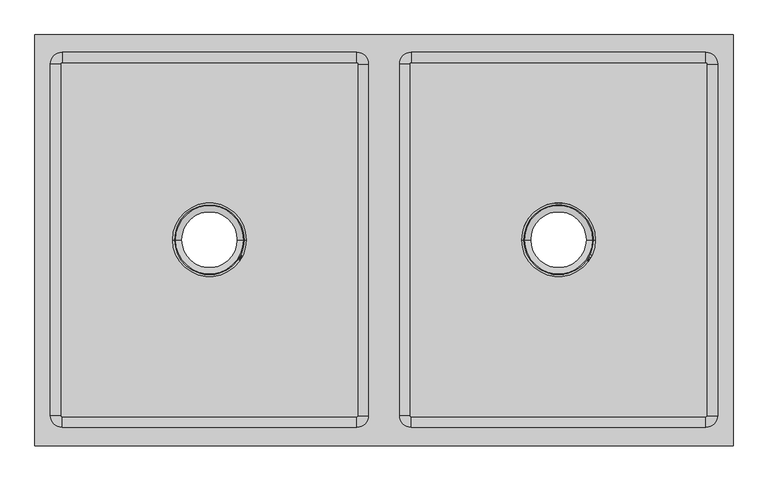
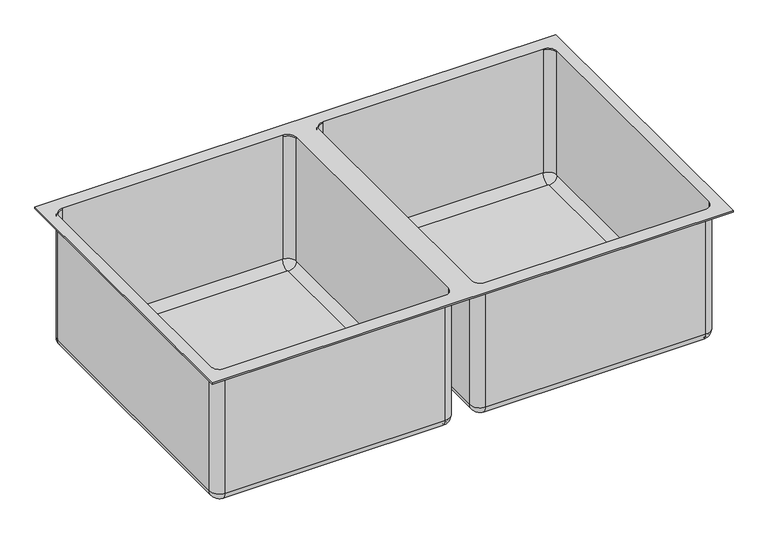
"""IFC4 building model written with IfcOpenShell, lengths in millimetres: flow terminal geometry, equip-sink-elkaySSP-economy-DBL : ByType."""

from ifc_helpers import new_model, si_unit, point, frame, origin, place, context, project, spatial, polyline, circle_curve, ellipse_curve, trimmed, source, transform, mapped, element, save
from ifc_brep_helpers import plane_surface, cylinder_surface, revolved_surface, advanced_brep


def flow_terminal_a46089cf(model_context):
    return source(origin(), model_context, "Body", "AdvancedBrep", [
        advanced_brep(
        [(-42.8625, 282.575, 555.625), (-44.45, 284.1625, 555.625), (-527.05, 284.1625, 555.625), (-528.6375, 282.575, 555.625), (-528.6375, -293.6875, 555.625), (-527.05, -295.275, 555.625), (-44.45, -295.275, 555.625), (-42.8625, -293.6875, 555.625), (-346.075, -5.55625, 555.625), (-225.425, -5.55625, 555.625), (-44.45, 284.1625, 552.45), (-42.8625, 282.575, 552.45), (-42.8625, -293.6875, 552.45), (-44.45, -295.275, 552.45), (-527.05, -295.275, 552.45), (-528.6375, -293.6875, 552.45), (-528.6375, 282.575, 552.45), (-527.05, 284.1625, 552.45), (-346.075, -5.55625, 552.45), (-225.425, -5.55625, 552.45), (-225.425, -5.55625, 553.7398396), (-346.075, -5.55625, 553.7398396), (571.5, 330.2, 860.425), (-571.5, 330.2, 860.425), (-571.5, -342.9, 860.425), (571.5, -342.9, 860.425), (-44.45, 301.625, 860.425), (-25.4, 282.575, 860.425), (-25.4, -293.6875, 860.425), (-44.45, -312.7375, 860.425), (-527.05, -312.7375, 860.425), (-546.1, -293.6875, 860.425), (-546.1, 282.575, 860.425), (-527.05, 301.625, 860.425), (546.1, -293.6875, 860.425), (527.05, -312.7375, 860.425), (44.45, -312.7375, 860.425), (25.4, -293.6875, 860.425), (25.4, 282.575, 860.425), (44.45, 301.625, 860.425), (527.05, 301.625, 860.425), (546.1, 282.575, 860.425), (571.5, 330.2, 857.25), (571.5, -342.9, 857.25), (-571.5, -342.9, 857.25), (-571.5, 330.2, 857.25), (-22.225, 282.575, 857.25), (-44.45, 304.8, 857.25), (-527.05, 304.8, 857.25), (-549.275, 282.575, 857.25), (-549.275, -293.6875, 857.25), (-527.05, -315.9125, 857.25), (-44.45, -315.9125, 857.25), (-22.225, -293.6875, 857.25), (549.275, 282.575, 857.25), (527.05, 304.8, 857.25), (44.45, 304.8, 857.25), (22.225, 282.575, 857.25), (22.225, -293.6875, 857.25), (44.45, -315.9125, 857.25), (527.05, -315.9125, 857.25), (549.275, -293.6875, 857.25), (546.1, 282.575, 857.25), (546.1, 282.575, 573.0875), (546.1, -293.6875, 573.0875), (546.1, -293.6875, 857.25), (-44.45, -312.7375, 857.25), (-44.45, -312.7375, 573.0875), (-527.05, -312.7375, 573.0875), (-527.05, -312.7375, 857.25), (-546.1, -293.6875, 857.25), (-546.1, -293.6875, 573.0875), (-546.1, 282.575, 573.0875), (-546.1, 282.575, 857.25), (-527.05, 301.625, 857.25), (-527.05, 301.625, 573.0875), (-44.45, 301.625, 573.0875), (-44.45, 301.625, 857.25), (-25.4, 282.575, 857.25), (-25.4, 282.575, 573.0875), (-25.4, -293.6875, 573.0875), (-25.4, -293.6875, 857.25), (527.05, -312.7375, 857.25), (527.05, -312.7375, 573.0875), (44.45, -312.7375, 573.0875), (44.45, -312.7375, 857.25), (25.4, -293.6875, 857.25), (25.4, -293.6875, 573.0875), (25.4, 282.575, 573.0875), (25.4, 282.575, 857.25), (44.45, 301.625, 857.25), (44.45, 301.625, 573.0875), (527.05, 301.625, 573.0875), (527.05, 301.625, 857.25), (-22.225, 282.575, 573.0875), (-44.45, 304.8, 573.0875), (-22.225, -293.6875, 573.0875), (-44.45, -315.9125, 573.0875), (-527.05, -315.9125, 573.0875), (-549.275, -293.6875, 573.0875), (-549.275, 282.575, 573.0875), (-527.05, 304.8, 573.0875), (528.6375, 282.575, 555.625), (527.05, 284.1625, 555.625), (44.45, 284.1625, 555.625), (42.8625, 282.575, 555.625), (42.8625, -293.6875, 555.625), (44.45, -295.275, 555.625), (527.05, -295.275, 555.625), (528.6375, -293.6875, 555.625), (225.425, -5.55625, 555.625), (346.075, -5.55625, 555.625), (527.05, 284.1625, 552.45), (528.6375, 282.575, 552.45), (528.6375, -293.6875, 552.45), (527.05, -295.275, 552.45), (44.45, -295.275, 552.45), (42.8625, -293.6875, 552.45), (42.8625, 282.575, 552.45), (44.45, 284.1625, 552.45), (225.425, -5.55625, 552.45), (346.075, -5.55625, 552.45), (346.075, -5.55625, 553.7398396), (225.425, -5.55625, 553.7398396), (228.1618408, -5.55625, 554.2207015), (343.3381592, -5.55625, 554.2207015), (229.7274156, -5.55625, 552.0462919), (341.7725844, -5.55625, 552.0462919), (239.9410162, -5.55625, 547.3503836), (331.5589838, -5.55625, 547.3503836), (239.9410162, -5.55625, 545.2536816), (331.5589838, -5.55625, 545.2536816), (228.5116165, -5.55625, 550.508578), (342.9883835, -5.55625, 550.508578), (226.6319717, -5.55625, 553.1191958), (344.8680283, -5.55625, 553.1191958), (-343.3381592, -5.55625, 554.2207015), (-228.1618408, -5.55625, 554.2207015), (-341.7725844, -5.55625, 552.0462919), (-229.7274156, -5.55625, 552.0462919), (-331.5589838, -5.55625, 547.3503836), (-239.9410162, -5.55625, 547.3503836), (-331.5589838, -5.55625, 545.2536816), (-239.9410162, -5.55625, 545.2536816), (-342.9883835, -5.55625, 550.508578), (-228.5116165, -5.55625, 550.508578), (-344.8680283, -5.55625, 553.1191958), (-226.6319717, -5.55625, 553.1191958), (549.275, 282.575, 573.0875), (527.05, 304.8, 573.0875), (549.275, -293.6875, 573.0875), (527.05, -315.9125, 573.0875), (44.45, -315.9125, 573.0875), (22.225, -293.6875, 573.0875), (22.225, 282.575, 573.0875), (44.45, 304.8, 573.0875)],
        [
            (0, 1, circle_curve(frame((-44.45, 282.575, 555.625), z_axis=(0.0, 0.0, 1.0), x_axis=(0.0, 1.0, 0.0)), 1.5875)),
            (1, 2),
            (2, 3, circle_curve(frame((-527.05, 282.575, 555.625), z_axis=(0.0, 0.0, 1.0), x_axis=(-1.0, 0.0, 0.0)), 1.5875)),
            (3, 4),
            (4, 5, circle_curve(frame((-527.05, -293.6875, 555.625), z_axis=(0.0, 0.0, 1.0), x_axis=(0.0, -1.0, 0.0)), 1.5875)),
            (5, 6),
            (6, 7, circle_curve(frame((-44.45, -293.6875, 555.625), z_axis=(0.0, 0.0, 1.0), x_axis=(1.0, 0.0, 0.0)), 1.5875)),
            (7, 0),
            (8, 9, circle_curve(frame((-285.75, -5.55625, 555.625), z_axis=(0.0, 0.0, -1.0), x_axis=(1.0, 0.0, 0.0)), 60.325)),
            (9, 8, circle_curve(frame((-285.75, -5.55625, 555.625), z_axis=(0.0, 0.0, -1.0), x_axis=(-1.0, 0.0, 0.0)), 60.325)),
            (10, 11, circle_curve(frame((-44.45, 282.575, 552.45), z_axis=(0.0, 0.0, -1.0), x_axis=(0.0, 1.0, 0.0)), 1.5875)),
            (11, 12),
            (12, 13, circle_curve(frame((-44.45, -293.6875, 552.45), z_axis=(0.0, 0.0, -1.0), x_axis=(1.0, 0.0, 0.0)), 1.5875)),
            (13, 14),
            (14, 15, circle_curve(frame((-527.05, -293.6875, 552.45), z_axis=(0.0, 0.0, -1.0), x_axis=(0.0, -1.0, 0.0)), 1.5875)),
            (15, 16),
            (16, 17, circle_curve(frame((-527.05, 282.575, 552.45), z_axis=(0.0, 0.0, -1.0), x_axis=(-1.0, 0.0, 0.0)), 1.5875)),
            (17, 10),
            (18, 19, circle_curve(frame((-285.75, -5.55625, 552.45), z_axis=(0.0, 0.0, 1.0), x_axis=(1.0, 0.0, 0.0)), 60.325)),
            (19, 18, circle_curve(frame((-285.75, -5.55625, 552.45), z_axis=(0.0, 0.0, 1.0), x_axis=(1.0, 0.0, 0.0)), 60.325)),
            (19, 20),
            (20, 21, circle_curve(frame((-285.75, -5.55625, 553.7398396), z_axis=(0.0, 0.0, 1.0), x_axis=(1.0, 0.0, 0.0)), 60.325)),
            (21, 18),
            (21, 20, circle_curve(frame((-285.75, -5.55625, 553.7398396), z_axis=(0.0, 0.0, 1.0), x_axis=(1.0, 0.0, 0.0)), 60.325)),
            (22, 23),
            (23, 24),
            (24, 25),
            (25, 22),
            (26, 27, circle_curve(frame((-44.45, 282.575, 860.425), z_axis=(0.0, 0.0, -1.0), x_axis=(1.0, 0.0, 0.0)), 19.05)),
            (27, 28),
            (28, 29, circle_curve(frame((-44.45, -293.6875, 860.425), z_axis=(0.0, 0.0, -1.0), x_axis=(1.0, 0.0, 0.0)), 19.05)),
            (29, 30),
            (30, 31, circle_curve(frame((-527.05, -293.6875, 860.425), z_axis=(0.0, 0.0, -1.0), x_axis=(1.0, 0.0, 0.0)), 19.05)),
            (31, 32),
            (32, 33, circle_curve(frame((-527.05, 282.575, 860.425), z_axis=(0.0, 0.0, -1.0), x_axis=(1.0, 0.0, 0.0)), 19.05)),
            (33, 26),
            (34, 35, circle_curve(frame((527.05, -293.6875, 860.425), z_axis=(0.0, 0.0, -1.0), x_axis=(1.0, 0.0, 0.0)), 19.05)),
            (35, 36),
            (36, 37, circle_curve(frame((44.45, -293.6875, 860.425), z_axis=(0.0, 0.0, -1.0), x_axis=(1.0, 0.0, 0.0)), 19.05)),
            (37, 38),
            (38, 39, circle_curve(frame((44.45, 282.575, 860.425), z_axis=(0.0, 0.0, -1.0), x_axis=(1.0, 0.0, 0.0)), 19.05)),
            (39, 40),
            (40, 41, circle_curve(frame((527.05, 282.575, 860.425), z_axis=(0.0, 0.0, -1.0), x_axis=(1.0, 0.0, 0.0)), 19.05)),
            (41, 34),
            (42, 43),
            (43, 44),
            (44, 45),
            (45, 42),
            (46, 47, circle_curve(frame((-44.45, 282.575, 857.25), z_axis=(0.0, 0.0, 1.0), x_axis=(0.0, 1.0, 0.0)), 22.225)),
            (47, 48),
            (48, 49, circle_curve(frame((-527.05, 282.575, 857.25), z_axis=(0.0, 0.0, 1.0), x_axis=(-1.0, 0.0, 0.0)), 22.225)),
            (49, 50),
            (50, 51, circle_curve(frame((-527.05, -293.6875, 857.25), z_axis=(0.0, 0.0, 1.0), x_axis=(0.0, -1.0, 0.0)), 22.225)),
            (51, 52),
            (52, 53, circle_curve(frame((-44.45, -293.6875, 857.25), z_axis=(0.0, 0.0, 1.0), x_axis=(1.0, 0.0, 0.0)), 22.225)),
            (53, 46),
            (54, 55, circle_curve(frame((527.05, 282.575, 857.25), z_axis=(0.0, 0.0, 1.0), x_axis=(0.0, 1.0, 0.0)), 22.225)),
            (55, 56),
            (56, 57, circle_curve(frame((44.45, 282.575, 857.25), z_axis=(0.0, 0.0, 1.0), x_axis=(-1.0, 0.0, 0.0)), 22.225)),
            (57, 58),
            (58, 59, circle_curve(frame((44.45, -293.6875, 857.25), z_axis=(0.0, 0.0, 1.0), x_axis=(0.0, -1.0, 0.0)), 22.225)),
            (59, 60),
            (60, 61, circle_curve(frame((527.05, -293.6875, 857.25), z_axis=(0.0, 0.0, 1.0), x_axis=(1.0, 0.0, 0.0)), 22.225)),
            (61, 54),
            (22, 42),
            (45, 23),
            (44, 24),
            (43, 25),
            (41, 62),
            (62, 63),
            (63, 64),
            (64, 65),
            (65, 34),
            (29, 66),
            (66, 67),
            (67, 68),
            (68, 69),
            (69, 30),
            (31, 70),
            (70, 71),
            (71, 72),
            (72, 73),
            (73, 32),
            (33, 74),
            (74, 75),
            (75, 76),
            (76, 77),
            (77, 26),
            (69, 70, circle_curve(frame((-527.05, -293.6875, 857.25), z_axis=(0.0, 0.0, -1.0), x_axis=(1.0, 0.0, 0.0)), 19.05)),
            (73, 74, circle_curve(frame((-527.05, 282.575, 857.25), z_axis=(0.0, 0.0, -1.0), x_axis=(1.0, 0.0, 0.0)), 19.05)),
            (77, 78, circle_curve(frame((-44.45, 282.575, 857.25), z_axis=(0.0, 0.0, -1.0), x_axis=(1.0, 0.0, 0.0)), 19.05)),
            (78, 27),
            (78, 79),
            (79, 80),
            (80, 81),
            (81, 28),
            (81, 66, circle_curve(frame((-44.45, -293.6875, 857.25), z_axis=(0.0, 0.0, -1.0), x_axis=(1.0, 0.0, 0.0)), 19.05)),
            (35, 82),
            (82, 83),
            (83, 84),
            (84, 85),
            (85, 36),
            (37, 86),
            (86, 87),
            (87, 88),
            (88, 89),
            (89, 38),
            (39, 90),
            (90, 91),
            (91, 92),
            (92, 93),
            (93, 40),
            (76, 79, circle_curve(frame((-44.45, 282.575, 573.0875), z_axis=(0.0, 0.0, -1.0), x_axis=(0.0, 1.0, 0.0)), 19.05)),
            (80, 67, circle_curve(frame((-44.45, -293.6875, 573.0875), z_axis=(0.0, 0.0, -1.0), x_axis=(1.0, 0.0, 0.0)), 19.05)),
            (68, 71, circle_curve(frame((-527.05, -293.6875, 573.0875), z_axis=(0.0, 0.0, -1.0), x_axis=(0.0, -1.0, 0.0)), 19.05)),
            (72, 75, circle_curve(frame((-527.05, 282.575, 573.0875), z_axis=(0.0, 0.0, -1.0), x_axis=(-1.0, 0.0, 0.0)), 19.05)),
            (94, 95, circle_curve(frame((-44.45, 282.575, 573.0875), z_axis=(0.0, 0.0, 1.0), x_axis=(0.0, 1.0, 0.0)), 22.225)),
            (95, 47),
            (46, 94),
            (94, 11, circle_curve(frame((-42.8625, 282.575, 573.0875), z_axis=(0.0, 1.0, 0.0), x_axis=(1.0, 0.0, 0.0)), 20.6375)),
            (10, 95, circle_curve(frame((-44.45, 284.1625, 573.0875), z_axis=(1.0, 0.0, 0.0), x_axis=(0.0, 1.0, 0.0)), 20.6375)),
            (76, 1, circle_curve(frame((-44.45, 284.1625, 573.0875), z_axis=(-1.0, 0.0, 0.0), x_axis=(0.0, 1.0, 0.0)), 17.4625)),
            (0, 79, circle_curve(frame((-42.8625, 282.575, 573.0875), z_axis=(0.0, -1.0, 0.0), x_axis=(1.0, 0.0, 0.0)), 17.4625)),
            (53, 96),
            (96, 94),
            (96, 12, circle_curve(frame((-42.8625, -293.6875, 573.0875), z_axis=(0.0, 1.0, 0.0), x_axis=(1.0, 0.0, 0.0)), 20.6375)),
            (7, 80, circle_curve(frame((-42.8625, -293.6875, 573.0875), z_axis=(0.0, -1.0, 0.0), x_axis=(1.0, 0.0, 0.0)), 17.4625)),
            (52, 97),
            (97, 96, circle_curve(frame((-44.45, -293.6875, 573.0875), z_axis=(0.0, 0.0, 1.0), x_axis=(1.0, 0.0, 0.0)), 22.225)),
            (97, 13, circle_curve(frame((-44.45, -295.275, 573.0875), z_axis=(1.0, 0.0, 0.0), x_axis=(0.0, -1.0, 0.0)), 20.6375)),
            (6, 67, circle_curve(frame((-44.45, -295.275, 573.0875), z_axis=(-1.0, 0.0, 0.0), x_axis=(0.0, -1.0, 0.0)), 17.4625)),
            (51, 98),
            (98, 97),
            (98, 14, circle_curve(frame((-527.05, -295.275, 573.0875), z_axis=(1.0, 0.0, 0.0), x_axis=(0.0, -1.0, 0.0)), 20.6375)),
            (5, 68, circle_curve(frame((-527.05, -295.275, 573.0875), z_axis=(-1.0, 0.0, 0.0), x_axis=(0.0, -1.0, 0.0)), 17.4625)),
            (50, 99),
            (99, 98, circle_curve(frame((-527.05, -293.6875, 573.0875), z_axis=(0.0, 0.0, 1.0), x_axis=(0.0, -1.0, 0.0)), 22.225)),
            (99, 15, circle_curve(frame((-528.6375, -293.6875, 573.0875), z_axis=(0.0, -1.0, 0.0), x_axis=(-1.0, 0.0, 0.0)), 20.6375)),
            (4, 71, circle_curve(frame((-528.6375, -293.6875, 573.0875), z_axis=(0.0, 1.0, 0.0), x_axis=(-1.0, 0.0, 0.0)), 17.4625)),
            (49, 100),
            (100, 99),
            (100, 16, circle_curve(frame((-528.6375, 282.575, 573.0875), z_axis=(0.0, -1.0, 0.0), x_axis=(-1.0, 0.0, 0.0)), 20.6375)),
            (3, 72, circle_curve(frame((-528.6375, 282.575, 573.0875), z_axis=(0.0, 1.0, 0.0), x_axis=(-1.0, 0.0, 0.0)), 17.4625)),
            (48, 101),
            (101, 100, circle_curve(frame((-527.05, 282.575, 573.0875), z_axis=(0.0, 0.0, 1.0), x_axis=(-1.0, 0.0, 0.0)), 22.225)),
            (101, 17, circle_curve(frame((-527.05, 284.1625, 573.0875), z_axis=(-1.0, 0.0, 0.0), x_axis=(0.0, 1.0, 0.0)), 20.6375)),
            (2, 75, circle_curve(frame((-527.05, 284.1625, 573.0875), z_axis=(1.0, 0.0, 0.0), x_axis=(0.0, 1.0, 0.0)), 17.4625)),
            (95, 101),
            (102, 103, circle_curve(frame((527.05, 282.575, 555.625), z_axis=(0.0, 0.0, 1.0), x_axis=(0.0, 1.0, 0.0)), 1.5875)),
            (103, 104),
            (104, 105, circle_curve(frame((44.45, 282.575, 555.625), z_axis=(0.0, 0.0, 1.0), x_axis=(-1.0, 0.0, 0.0)), 1.5875)),
            (105, 106),
            (106, 107, circle_curve(frame((44.45, -293.6875, 555.625), z_axis=(0.0, 0.0, 1.0), x_axis=(0.0, -1.0, 0.0)), 1.5875)),
            (107, 108),
            (108, 109, circle_curve(frame((527.05, -293.6875, 555.625), z_axis=(0.0, 0.0, 1.0), x_axis=(1.0, 0.0, 0.0)), 1.5875)),
            (109, 102),
            (110, 111, circle_curve(frame((285.75, -5.55625, 555.625), z_axis=(0.0, 0.0, -1.0), x_axis=(1.0, 0.0, 0.0)), 60.325)),
            (111, 110, circle_curve(frame((285.75, -5.55625, 555.625), z_axis=(0.0, 0.0, -1.0), x_axis=(-1.0, 0.0, 0.0)), 60.325)),
            (112, 113, circle_curve(frame((527.05, 282.575, 552.45), z_axis=(0.0, 0.0, -1.0), x_axis=(0.0, 1.0, 0.0)), 1.5875)),
            (113, 114),
            (114, 115, circle_curve(frame((527.05, -293.6875, 552.45), z_axis=(0.0, 0.0, -1.0), x_axis=(1.0, 0.0, 0.0)), 1.5875)),
            (115, 116),
            (116, 117, circle_curve(frame((44.45, -293.6875, 552.45), z_axis=(0.0, 0.0, -1.0), x_axis=(0.0, -1.0, 0.0)), 1.5875)),
            (117, 118),
            (118, 119, circle_curve(frame((44.45, 282.575, 552.45), z_axis=(0.0, 0.0, -1.0), x_axis=(-1.0, 0.0, 0.0)), 1.5875)),
            (119, 112),
            (120, 121, circle_curve(frame((285.75, -5.55625, 552.45), z_axis=(0.0, 0.0, 1.0), x_axis=(1.0, 0.0, 0.0)), 60.325)),
            (121, 120, circle_curve(frame((285.75, -5.55625, 552.45), z_axis=(0.0, 0.0, 1.0), x_axis=(1.0, 0.0, 0.0)), 60.325)),
            (121, 122),
            (122, 123, circle_curve(frame((285.75, -5.55625, 553.7398396), z_axis=(0.0, 0.0, 1.0), x_axis=(1.0, 0.0, 0.0)), 60.325)),
            (123, 120),
            (123, 122, circle_curve(frame((285.75, -5.55625, 553.7398396), z_axis=(0.0, 0.0, 1.0), x_axis=(1.0, 0.0, 0.0)), 60.325)),
            (64, 83, circle_curve(frame((527.05, -293.6875, 573.0875), z_axis=(0.0, 0.0, -1.0), x_axis=(1.0, 0.0, 0.0)), 19.05)),
            (82, 65, circle_curve(frame((527.05, -293.6875, 857.25), z_axis=(0.0, 0.0, 1.0), x_axis=(1.0, 0.0, 0.0)), 19.05)),
            (124, 125, circle_curve(frame((285.75, -5.55625, 554.2207015), z_axis=(0.0, 0.0, -1.0), x_axis=(1.0, 0.0, 0.0)), 57.5881592)),
            (125, 111, circle_curve(frame((346.0796845, -5.55625, 552.2468032), z_axis=(0.0, 1.0, 0.0), x_axis=(-1.0, 0.0, 0.0)), 3.3782)),
            (110, 124, circle_curve(frame((225.4203155, -5.55625, 552.2468032), z_axis=(0.0, 1.0, 0.0), x_axis=(1.0, 0.0, 0.0)), 3.3782)),
            (124, 126),
            (126, 127, circle_curve(frame((285.75, -5.55625, 552.0462919), z_axis=(0.0, 0.0, -1.0), x_axis=(1.0, 0.0, 0.0)), 56.0225844)),
            (127, 125),
            (126, 128),
            (128, 129, circle_curve(frame((285.75, -5.55625, 547.3503836), z_axis=(0.0, 0.0, -1.0), x_axis=(1.0, 0.0, 0.0)), 45.8089838)),
            (129, 127),
            (128, 130),
            (130, 131, circle_curve(frame((285.75, -5.55625, 545.2536816), z_axis=(0.0, 0.0, -1.0), x_axis=(1.0, 0.0, 0.0)), 45.8089838)),
            (131, 129),
            (130, 132),
            (132, 133, circle_curve(frame((285.75, -5.55625, 550.508578), z_axis=(0.0, 0.0, -1.0), x_axis=(1.0, 0.0, 0.0)), 57.2383835)),
            (133, 131),
            (132, 134),
            (134, 135, circle_curve(frame((285.75, -5.55625, 553.1191958), z_axis=(0.0, 0.0, -1.0), x_axis=(1.0, 0.0, 0.0)), 59.1180283)),
            (135, 133),
            (134, 123, circle_curve(frame((225.4203155, -5.55625, 552.2468032), z_axis=(0.0, -1.0, 0.0), x_axis=(1.0, 0.0, 0.0)), 1.4930438)),
            (122, 135, circle_curve(frame((346.0796845, -5.55625, 552.2468032), z_axis=(0.0, -1.0, 0.0), x_axis=(-1.0, 0.0, 0.0)), 1.4930438)),
            (125, 124, circle_curve(frame((285.75, -5.55625, 554.2207015), z_axis=(0.0, 0.0, -1.0), x_axis=(-1.0, 0.0, 0.0)), 57.5881592)),
            (127, 126, circle_curve(frame((285.75, -5.55625, 552.0462919), z_axis=(0.0, 0.0, -1.0), x_axis=(-1.0, 0.0, 0.0)), 56.0225844)),
            (129, 128, circle_curve(frame((285.75, -5.55625, 547.3503836), z_axis=(0.0, 0.0, -1.0), x_axis=(-1.0, 0.0, 0.0)), 45.8089838)),
            (131, 130, circle_curve(frame((285.75, -5.55625, 545.2536816), z_axis=(0.0, 0.0, -1.0), x_axis=(-1.0, 0.0, 0.0)), 45.8089838)),
            (133, 132, circle_curve(frame((285.75, -5.55625, 550.508578), z_axis=(0.0, 0.0, -1.0), x_axis=(-1.0, 0.0, 0.0)), 57.2383835)),
            (135, 134, circle_curve(frame((285.75, -5.55625, 553.1191958), z_axis=(0.0, 0.0, -1.0), x_axis=(-1.0, 0.0, 0.0)), 59.1180283)),
            (136, 137, circle_curve(frame((-285.75, -5.55625, 554.2207015), z_axis=(0.0, 0.0, -1.0), x_axis=(1.0, 0.0, 0.0)), 57.5881592)),
            (137, 9, circle_curve(frame((-225.4203155, -5.55625, 552.2468032), z_axis=(0.0, 1.0, 0.0), x_axis=(-1.0, 0.0, 0.0)), 3.3782)),
            (8, 136, circle_curve(frame((-346.0796845, -5.55625, 552.2468032), z_axis=(0.0, 1.0, 0.0), x_axis=(1.0, 0.0, 0.0)), 3.3782)),
            (136, 138),
            (138, 139, circle_curve(frame((-285.75, -5.55625, 552.0462919), z_axis=(0.0, 0.0, -1.0), x_axis=(1.0, 0.0, 0.0)), 56.0225844)),
            (139, 137),
            (138, 140),
            (140, 141, circle_curve(frame((-285.75, -5.55625, 547.3503836), z_axis=(0.0, 0.0, -1.0), x_axis=(1.0, 0.0, 0.0)), 45.8089838)),
            (141, 139),
            (140, 142),
            (142, 143, circle_curve(frame((-285.75, -5.55625, 545.2536816), z_axis=(0.0, 0.0, -1.0), x_axis=(1.0, 0.0, 0.0)), 45.8089838)),
            (143, 141),
            (142, 144),
            (144, 145, circle_curve(frame((-285.75, -5.55625, 550.508578), z_axis=(0.0, 0.0, -1.0), x_axis=(1.0, 0.0, 0.0)), 57.2383835)),
            (145, 143),
            (144, 146),
            (146, 147, circle_curve(frame((-285.75, -5.55625, 553.1191958), z_axis=(0.0, 0.0, -1.0), x_axis=(1.0, 0.0, 0.0)), 59.1180283)),
            (147, 145),
            (146, 21, circle_curve(frame((-346.0796845, -5.55625, 552.2468032), z_axis=(0.0, -1.0, 0.0), x_axis=(1.0, 0.0, 0.0)), 1.4930438)),
            (20, 147, circle_curve(frame((-225.4203155, -5.55625, 552.2468032), z_axis=(0.0, -1.0, 0.0), x_axis=(-1.0, 0.0, 0.0)), 1.4930438)),
            (137, 136, circle_curve(frame((-285.75, -5.55625, 554.2207015), z_axis=(0.0, 0.0, -1.0), x_axis=(-1.0, 0.0, 0.0)), 57.5881592)),
            (139, 138, circle_curve(frame((-285.75, -5.55625, 552.0462919), z_axis=(0.0, 0.0, -1.0), x_axis=(-1.0, 0.0, 0.0)), 56.0225844)),
            (141, 140, circle_curve(frame((-285.75, -5.55625, 547.3503836), z_axis=(0.0, 0.0, -1.0), x_axis=(-1.0, 0.0, 0.0)), 45.8089838)),
            (143, 142, circle_curve(frame((-285.75, -5.55625, 545.2536816), z_axis=(0.0, 0.0, -1.0), x_axis=(-1.0, 0.0, 0.0)), 45.8089838)),
            (145, 144, circle_curve(frame((-285.75, -5.55625, 550.508578), z_axis=(0.0, 0.0, -1.0), x_axis=(-1.0, 0.0, 0.0)), 57.2383835)),
            (147, 146, circle_curve(frame((-285.75, -5.55625, 553.1191958), z_axis=(0.0, 0.0, -1.0), x_axis=(-1.0, 0.0, 0.0)), 59.1180283)),
            (62, 93, circle_curve(frame((527.05, 282.575, 857.25), z_axis=(0.0, 0.0, 1.0), x_axis=(0.0, 1.0, 0.0)), 19.05)),
            (92, 63, circle_curve(frame((527.05, 282.575, 573.0875), z_axis=(0.0, 0.0, -1.0), x_axis=(0.0, 1.0, 0.0)), 19.05)),
            (84, 87, circle_curve(frame((44.45, -293.6875, 573.0875), z_axis=(0.0, 0.0, -1.0), x_axis=(0.0, -1.0, 0.0)), 19.05)),
            (86, 85, circle_curve(frame((44.45, -293.6875, 857.25), z_axis=(0.0, 0.0, 1.0), x_axis=(0.0, -1.0, 0.0)), 19.05)),
            (88, 91, circle_curve(frame((44.45, 282.575, 573.0875), z_axis=(0.0, 0.0, -1.0), x_axis=(-1.0, 0.0, 0.0)), 19.05)),
            (90, 89, circle_curve(frame((44.45, 282.575, 857.25), z_axis=(0.0, 0.0, 1.0), x_axis=(-1.0, 0.0, 0.0)), 19.05)),
            (148, 149, circle_curve(frame((527.05, 282.575, 573.0875), z_axis=(0.0, 0.0, 1.0), x_axis=(0.0, 1.0, 0.0)), 22.225)),
            (149, 55),
            (54, 148),
            (148, 113, circle_curve(frame((528.6375, 282.575, 573.0875), z_axis=(0.0, 1.0, 0.0), x_axis=(1.0, 0.0, 0.0)), 20.6375)),
            (112, 149, circle_curve(frame((527.05, 284.1625, 573.0875), z_axis=(1.0, 0.0, 0.0), x_axis=(0.0, 1.0, 0.0)), 20.6375)),
            (92, 103, circle_curve(frame((527.05, 284.1625, 573.0875), z_axis=(-1.0, 0.0, 0.0), x_axis=(0.0, 1.0, 0.0)), 17.4625)),
            (102, 63, circle_curve(frame((528.6375, 282.575, 573.0875), z_axis=(0.0, -1.0, 0.0), x_axis=(1.0, 0.0, 0.0)), 17.4625)),
            (61, 150),
            (150, 148),
            (150, 114, circle_curve(frame((528.6375, -293.6875, 573.0875), z_axis=(0.0, 1.0, 0.0), x_axis=(1.0, 0.0, 0.0)), 20.6375)),
            (109, 64, circle_curve(frame((528.6375, -293.6875, 573.0875), z_axis=(0.0, -1.0, 0.0), x_axis=(1.0, 0.0, 0.0)), 17.4625)),
            (60, 151),
            (151, 150, circle_curve(frame((527.05, -293.6875, 573.0875), z_axis=(0.0, 0.0, 1.0), x_axis=(1.0, 0.0, 0.0)), 22.225)),
            (151, 115, circle_curve(frame((527.05, -295.275, 573.0875), z_axis=(1.0, 0.0, 0.0), x_axis=(0.0, -1.0, 0.0)), 20.6375)),
            (108, 83, circle_curve(frame((527.05, -295.275, 573.0875), z_axis=(-1.0, 0.0, 0.0), x_axis=(0.0, -1.0, 0.0)), 17.4625)),
            (59, 152),
            (152, 151),
            (152, 116, circle_curve(frame((44.45, -295.275, 573.0875), z_axis=(1.0, 0.0, 0.0), x_axis=(0.0, -1.0, 0.0)), 20.6375)),
            (107, 84, circle_curve(frame((44.45, -295.275, 573.0875), z_axis=(-1.0, 0.0, 0.0), x_axis=(0.0, -1.0, 0.0)), 17.4625)),
            (58, 153),
            (153, 152, circle_curve(frame((44.45, -293.6875, 573.0875), z_axis=(0.0, 0.0, 1.0), x_axis=(0.0, -1.0, 0.0)), 22.225)),
            (153, 117, circle_curve(frame((42.8625, -293.6875, 573.0875), z_axis=(0.0, -1.0, 0.0), x_axis=(-1.0, 0.0, 0.0)), 20.6375)),
            (106, 87, circle_curve(frame((42.8625, -293.6875, 573.0875), z_axis=(0.0, 1.0, 0.0), x_axis=(-1.0, 0.0, 0.0)), 17.4625)),
            (57, 154),
            (154, 153),
            (154, 118, circle_curve(frame((42.8625, 282.575, 573.0875), z_axis=(0.0, -1.0, 0.0), x_axis=(-1.0, 0.0, 0.0)), 20.6375)),
            (105, 88, circle_curve(frame((42.8625, 282.575, 573.0875), z_axis=(0.0, 1.0, 0.0), x_axis=(-1.0, 0.0, 0.0)), 17.4625)),
            (56, 155),
            (155, 154, circle_curve(frame((44.45, 282.575, 573.0875), z_axis=(0.0, 0.0, 1.0), x_axis=(-1.0, 0.0, 0.0)), 22.225)),
            (155, 119, circle_curve(frame((44.45, 284.1625, 573.0875), z_axis=(-1.0, 0.0, 0.0), x_axis=(0.0, 1.0, 0.0)), 20.6375)),
            (104, 91, circle_curve(frame((44.45, 284.1625, 573.0875), z_axis=(1.0, 0.0, 0.0), x_axis=(0.0, 1.0, 0.0)), 17.4625)),
            (149, 155),
        ],
        [
            plane_surface(frame((-527.05, 284.1625, 555.625), z_axis=(0.0, 0.0, 1.0), x_axis=(-1.0, 0.0, 0.0))),
            plane_surface(frame((-527.05, 284.1625, 552.45), z_axis=(0.0, 0.0, -1.0), x_axis=(1.0, 0.0, 0.0))),
            revolved_surface(polyline([(-225.425, -5.55625, 552.45), (-225.425, -5.55625, 553.7398396)]), (-285.75, -5.55625, 0.0), (0.0, 0.0, -1.0)),
            plane_surface(frame((-571.5, 330.2, 860.425), z_axis=(0.0, 0.0, 1.0), x_axis=(-1.0, 0.0, 0.0))),
            plane_surface(frame((-571.5, 330.2, 857.25), z_axis=(0.0, 0.0, -1.0), x_axis=(1.0, 0.0, 0.0))),
            plane_surface(frame((571.5, 330.2, 860.425), z_axis=(0.0, 1.0, 0.0), x_axis=(0.0, 0.0, -1.0))),
            plane_surface(frame((-571.5, 330.2, 860.425), z_axis=(-1.0, 0.0, 0.0), x_axis=(0.0, 0.0, -1.0))),
            plane_surface(frame((-571.5, -342.9, 860.425), z_axis=(0.0, -1.0, 0.0), x_axis=(0.0, 0.0, -1.0))),
            plane_surface(frame((571.5, -342.9, 860.425), z_axis=(1.0, 0.0, 0.0), x_axis=(0.0, 0.0, -1.0))),
            plane_surface(frame((546.1, 282.575, 860.425), z_axis=(-1.0, 0.0, 0.0), x_axis=(0.0, 0.0, -1.0))),
            plane_surface(frame((-44.45, -312.7375, 860.425), z_axis=(0.0, 1.0, 0.0), x_axis=(0.0, 0.0, -1.0))),
            plane_surface(frame((-546.1, -293.6875, 860.425), z_axis=(1.0, 0.0, 0.0), x_axis=(0.0, 0.0, -1.0))),
            plane_surface(frame((-527.05, 301.625, 860.425), z_axis=(0.0, -1.0, 0.0), x_axis=(0.0, 0.0, -1.0))),
            revolved_surface(polyline([(-507.99999999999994, -293.6875, 857.25), (-507.99999999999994, -293.6875, 860.425)]), (-527.05, -293.6875, 0.0), (0.0, 0.0, -1.0)),
            revolved_surface(polyline([(-507.99999999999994, 282.575, 857.25), (-507.99999999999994, 282.575, 860.425)]), (-527.05, 282.575, 0.0), (0.0, 0.0, -1.0)),
            revolved_surface(polyline([(-25.400000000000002, 282.575, 857.25), (-25.400000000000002, 282.575, 860.425)]), (-44.45, 282.575, 0.0), (0.0, 0.0, -1.0)),
            plane_surface(frame((-25.4, 282.575, 860.425), z_axis=(-1.0, 0.0, 0.0), x_axis=(0.0, 0.0, -1.0))),
            revolved_surface(polyline([(-25.400000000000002, -293.6875, 857.25), (-25.400000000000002, -293.6875, 860.425)]), (-44.45, -293.6875, 0.0), (0.0, 0.0, -1.0)),
            plane_surface(frame((527.05, -312.7375, 860.425), z_axis=(0.0, 1.0, 0.0), x_axis=(0.0, 0.0, -1.0))),
            plane_surface(frame((25.4, -293.6875, 860.425), z_axis=(1.0, 0.0, 0.0), x_axis=(0.0, 0.0, -1.0))),
            plane_surface(frame((44.45, 301.625, 860.425), z_axis=(0.0, -1.0, 0.0), x_axis=(0.0, 0.0, -1.0))),
            revolved_surface(polyline([(-44.45, 301.625, 573.0875), (-44.45, 301.625, 857.25)]), (-44.45, 282.575, 0.0), (0.0, 0.0, -1.0)),
            revolved_surface(polyline([(-25.400000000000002, -293.6875, 573.0875), (-25.400000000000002, -293.6875, 857.25)]), (-44.45, -293.6875, 0.0), (0.0, 0.0, -1.0)),
            revolved_surface(polyline([(-527.05, -312.7375, 573.0875), (-527.05, -312.7375, 857.25)]), (-527.05, -293.6875, 0.0), (0.0, 0.0, -1.0)),
            revolved_surface(polyline([(-546.0999999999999, 282.575, 573.0875), (-546.0999999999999, 282.575, 857.25)]), (-527.05, 282.575, 0.0), (0.0, 0.0, -1.0)),
            cylinder_surface(frame((-44.45, 282.575, 0.0), z_axis=(0.0, 0.0, -1.0), x_axis=(0.0, 1.0, 0.0)), 22.225),
            revolved_surface(trimmed(ellipse_curve(frame((-44.45, 284.1625, 573.0875), z_axis=(-1.0, 0.0, 0.0), x_axis=(0.0, 1.0, 0.0)), 20.6375, 20.6375), [point((-44.45, 304.8, 573.0875))], [point((-44.45, 284.1625, 552.45))], True, "CARTESIAN"), (-44.45, 282.575, 0.0), (0.0, 0.0, -1.0)),
            revolved_surface(trimmed(ellipse_curve(frame((-44.45, 284.1625, 573.0875), z_axis=(1.0, 0.0, 0.0), x_axis=(0.0, 1.0, 0.0)), 17.4625, 17.4625), [point((-44.45, 284.1625, 555.625))], [point((-44.45, 301.625, 573.0875))], True, "CARTESIAN"), (-44.45, 282.575, 0.0), (0.0, 0.0, -1.0)),
            plane_surface(frame((-22.225, 282.575, 857.25), z_axis=(1.0, 0.0, 0.0), x_axis=(0.0, -1.0, 0.0))),
            cylinder_surface(frame((-42.8625, 282.575, 573.0875), z_axis=(0.0, 1.0, 0.0), x_axis=(1.0, 0.0, 0.0)), 20.6375),
            revolved_surface(polyline([(-25.4, -293.68750000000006, 573.0875), (-25.4, 282.575, 573.0875)]), (-42.8625, 282.575, 573.0875), (0.0, -1.0, 0.0)),
            cylinder_surface(frame((-44.45, -293.6875, 0.0), z_axis=(0.0, 0.0, -1.0), x_axis=(1.0, 0.0, 0.0)), 22.225),
            revolved_surface(trimmed(ellipse_curve(frame((-42.8625, -293.6875, 573.0875), z_axis=(0.0, 1.0, 0.0), x_axis=(1.0, 0.0, 0.0)), 20.6375, 20.6375), [point((-22.225, -293.6875, 573.0875))], [point((-42.8625, -293.6875, 552.45))], True, "CARTESIAN"), (-44.45, -293.6875, 0.0), (0.0, 0.0, -1.0)),
            revolved_surface(trimmed(ellipse_curve(frame((-42.8625, -293.6875, 573.0875), z_axis=(0.0, -1.0, 0.0), x_axis=(1.0, 0.0, 0.0)), 17.4625, 17.4625), [point((-42.8625, -293.6875, 555.625))], [point((-25.4, -293.6875, 573.0875))], True, "CARTESIAN"), (-44.45, -293.6875, 0.0), (0.0, 0.0, -1.0)),
            plane_surface(frame((-44.45, -315.9125, 857.25), z_axis=(0.0, -1.0, 0.0), x_axis=(-1.0, 0.0, 0.0))),
            cylinder_surface(frame((-44.45, -295.275, 573.0875), z_axis=(1.0, 0.0, 0.0), x_axis=(0.0, -1.0, 0.0)), 20.6375),
            revolved_surface(polyline([(-527.05, -312.73749999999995, 573.0875), (-44.45, -312.73749999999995, 573.0875)]), (-44.45, -295.275, 573.0875), (-1.0, 0.0, 0.0)),
            cylinder_surface(frame((-527.05, -293.6875, 0.0), z_axis=(0.0, 0.0, -1.0), x_axis=(0.0, -1.0, 0.0)), 22.225),
            revolved_surface(trimmed(ellipse_curve(frame((-527.05, -295.275, 573.0875), z_axis=(1.0, 0.0, 0.0), x_axis=(0.0, -1.0, 0.0)), 20.6375, 20.6375), [point((-527.05, -315.9125, 573.0875))], [point((-527.05, -295.275, 552.45))], True, "CARTESIAN"), (-527.05, -293.6875, 0.0), (0.0, 0.0, -1.0)),
            revolved_surface(trimmed(ellipse_curve(frame((-527.05, -295.275, 573.0875), z_axis=(-1.0, 0.0, 0.0), x_axis=(0.0, -1.0, 0.0)), 17.4625, 17.4625), [point((-527.05, -295.275, 555.625))], [point((-527.05, -312.7375, 573.0875))], True, "CARTESIAN"), (-527.05, -293.6875, 0.0), (0.0, 0.0, -1.0)),
            plane_surface(frame((-549.275, -293.6875, 857.25), z_axis=(-1.0, 0.0, 0.0), x_axis=(0.0, 1.0, 0.0))),
            cylinder_surface(frame((-528.6375, -293.6875, 573.0875), z_axis=(0.0, -1.0, 0.0), x_axis=(-1.0, 0.0, 0.0)), 20.6375),
            revolved_surface(polyline([(-546.1, 282.57500000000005, 573.0875), (-546.1, -293.6875, 573.0875)]), (-528.6375, -293.6875, 573.0875), (0.0, 1.0, 0.0)),
            cylinder_surface(frame((-527.05, 282.575, 0.0), z_axis=(0.0, 0.0, -1.0), x_axis=(-1.0, 0.0, 0.0)), 22.225),
            revolved_surface(trimmed(ellipse_curve(frame((-528.6375, 282.575, 573.0875), z_axis=(0.0, -1.0, 0.0), x_axis=(-1.0, 0.0, 0.0)), 20.6375, 20.6375), [point((-549.275, 282.575, 573.0875))], [point((-528.6375, 282.575, 552.45))], True, "CARTESIAN"), (-527.05, 282.575, 0.0), (0.0, 0.0, -1.0)),
            revolved_surface(trimmed(ellipse_curve(frame((-528.6375, 282.575, 573.0875), z_axis=(0.0, 1.0, 0.0), x_axis=(-1.0, 0.0, 0.0)), 17.4625, 17.4625), [point((-528.6375, 282.575, 555.625))], [point((-546.1, 282.575, 573.0875))], True, "CARTESIAN"), (-527.05, 282.575, 0.0), (0.0, 0.0, -1.0)),
            plane_surface(frame((-527.05, 304.8, 857.25), z_axis=(0.0, 1.0, 0.0), x_axis=(1.0, 0.0, 0.0))),
            cylinder_surface(frame((-527.05, 284.1625, 573.0875), z_axis=(-1.0, 0.0, 0.0), x_axis=(0.0, 1.0, 0.0)), 20.6375),
            revolved_surface(polyline([(-44.44999999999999, 301.625, 573.0875), (-527.05, 301.625, 573.0875)]), (-527.05, 284.1625, 573.0875), (1.0, 0.0, 0.0)),
            plane_surface(frame((46.0375, 282.575, 555.625), z_axis=(0.0, 0.0, 1.0), x_axis=(0.0, 1.0, 0.0))),
            plane_surface(frame((46.0375, 282.575, 552.45), z_axis=(0.0, 0.0, -1.0), x_axis=(0.0, -1.0, 0.0))),
            revolved_surface(polyline([(346.075, -5.55625, 552.45), (346.075, -5.55625, 553.7398396)]), (285.75, -5.55625, 0.0), (0.0, 0.0, -1.0)),
            revolved_surface(polyline([(546.0999999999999, -293.6875, 573.0875), (546.0999999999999, -293.6875, 857.25)]), (527.05, -293.6875, 0.0), (0.0, 0.0, -1.0)),
            revolved_surface(trimmed(ellipse_curve(frame((346.0796845, -5.55625, 552.2468032), z_axis=(0.0, -1.0, 0.0), x_axis=(-1.0, 0.0, 0.0)), 3.3782, 3.3782), [point((346.075, -5.55625, 555.625))], [point((343.3381592, -5.55625, 554.2207015))], True, "CARTESIAN"), (285.75, -5.55625, 555.625), (0.0, 0.0, 1.0)),
            revolved_surface(polyline([(343.3381592, -5.55625, 554.2207015), (341.7725844, -5.55625, 552.0462919)]), (285.75, -5.55625, 555.625), (0.0, 0.0, 1.0)),
            revolved_surface(polyline([(341.7725844, -5.55625, 552.0462919), (331.5589838, -5.55625, 547.3503836)]), (285.75, -5.55625, 555.625), (0.0, 0.0, 1.0)),
            revolved_surface(polyline([(331.5589838, -5.55625, 547.3503836), (331.5589838, -5.55625, 545.2536816)]), (285.75, -5.55625, 555.625), (0.0, 0.0, 1.0)),
            revolved_surface(polyline([(331.5589838, -5.55625, 545.2536816), (342.9883835, -5.55625, 550.508578)]), (285.75, -5.55625, 555.625), (0.0, 0.0, 1.0)),
            revolved_surface(polyline([(342.9883835, -5.55625, 550.508578), (344.8680283, -5.55625, 553.1191958)]), (285.75, -5.55625, 555.625), (0.0, 0.0, 1.0)),
            revolved_surface(trimmed(ellipse_curve(frame((346.0796845, -5.55625, 552.2468032), z_axis=(0.0, 1.0, 0.0), x_axis=(-1.0, 0.0, 0.0)), 1.4930438, 1.4930438), [point((344.8680283, -5.55625, 553.1191958))], [point((346.075, -5.55625, 553.7398396))], True, "CARTESIAN"), (285.75, -5.55625, 555.625), (0.0, 0.0, 1.0)),
            revolved_surface(trimmed(ellipse_curve(frame((225.4203155, -5.55625, 552.2468032), z_axis=(0.0, 1.0, 0.0), x_axis=(1.0, 0.0, 0.0)), 3.3782, 3.3782), [point((225.425, -5.55625, 555.625))], [point((228.1618408, -5.55625, 554.2207015))], True, "CARTESIAN"), (285.75, -5.55625, 555.625), (0.0, 0.0, 1.0)),
            revolved_surface(polyline([(228.1618408, -5.55625, 554.2207015), (229.7274156, -5.55625, 552.0462919)]), (285.75, -5.55625, 555.625), (0.0, 0.0, 1.0)),
            revolved_surface(polyline([(229.7274156, -5.55625, 552.0462919), (239.9410162, -5.55625, 547.3503836)]), (285.75, -5.55625, 555.625), (0.0, 0.0, 1.0)),
            revolved_surface(polyline([(239.9410162, -5.55625, 547.3503836), (239.9410162, -5.55625, 545.2536816)]), (285.75, -5.55625, 555.625), (0.0, 0.0, 1.0)),
            revolved_surface(polyline([(239.9410162, -5.55625, 545.2536816), (228.5116165, -5.55625, 550.508578)]), (285.75, -5.55625, 555.625), (0.0, 0.0, 1.0)),
            revolved_surface(polyline([(228.5116165, -5.55625, 550.508578), (226.6319717, -5.55625, 553.1191958)]), (285.75, -5.55625, 555.625), (0.0, 0.0, 1.0)),
            revolved_surface(trimmed(ellipse_curve(frame((225.4203155, -5.55625, 552.2468032), z_axis=(0.0, -1.0, 0.0), x_axis=(1.0, 0.0, 0.0)), 1.4930438, 1.4930438), [point((226.6319717, -5.55625, 553.1191958))], [point((225.425, -5.55625, 553.7398396))], True, "CARTESIAN"), (285.75, -5.55625, 555.625), (0.0, 0.0, 1.0)),
            revolved_surface(trimmed(ellipse_curve(frame((-225.4203155, -5.55625, 552.2468032), z_axis=(0.0, -1.0, 0.0), x_axis=(-1.0, 0.0, 0.0)), 3.3782, 3.3782), [point((-225.425, -5.55625, 555.625))], [point((-228.1618408, -5.55625, 554.2207015))], True, "CARTESIAN"), (-285.75, -5.55625, 555.625), (0.0, 0.0, 1.0)),
            revolved_surface(polyline([(-228.1618408, -5.55625, 554.2207015), (-229.7274156, -5.55625, 552.0462919)]), (-285.75, -5.55625, 555.625), (0.0, 0.0, 1.0)),
            revolved_surface(polyline([(-229.7274156, -5.55625, 552.0462919), (-239.9410162, -5.55625, 547.3503836)]), (-285.75, -5.55625, 555.625), (0.0, 0.0, 1.0)),
            revolved_surface(polyline([(-239.9410162, -5.55625, 547.3503836), (-239.9410162, -5.55625, 545.2536816)]), (-285.75, -5.55625, 555.625), (0.0, 0.0, 1.0)),
            revolved_surface(polyline([(-239.9410162, -5.55625, 545.2536816), (-228.5116165, -5.55625, 550.508578)]), (-285.75, -5.55625, 555.625), (0.0, 0.0, 1.0)),
            revolved_surface(polyline([(-228.5116165, -5.55625, 550.508578), (-226.6319717, -5.55625, 553.1191958)]), (-285.75, -5.55625, 555.625), (0.0, 0.0, 1.0)),
            revolved_surface(trimmed(ellipse_curve(frame((-225.4203155, -5.55625, 552.2468032), z_axis=(0.0, 1.0, 0.0), x_axis=(-1.0, 0.0, 0.0)), 1.4930438, 1.4930438), [point((-226.6319717, -5.55625, 553.1191958))], [point((-225.425, -5.55625, 553.7398396))], True, "CARTESIAN"), (-285.75, -5.55625, 555.625), (0.0, 0.0, 1.0)),
            revolved_surface(trimmed(ellipse_curve(frame((-346.0796845, -5.55625, 552.2468032), z_axis=(0.0, 1.0, 0.0), x_axis=(1.0, 0.0, 0.0)), 3.3782, 3.3782), [point((-346.075, -5.55625, 555.625))], [point((-343.3381592, -5.55625, 554.2207015))], True, "CARTESIAN"), (-285.75, -5.55625, 555.625), (0.0, 0.0, 1.0)),
            revolved_surface(polyline([(-343.3381592, -5.55625, 554.2207015), (-341.7725844, -5.55625, 552.0462919)]), (-285.75, -5.55625, 555.625), (0.0, 0.0, 1.0)),
            revolved_surface(polyline([(-341.7725844, -5.55625, 552.0462919), (-331.5589838, -5.55625, 547.3503836)]), (-285.75, -5.55625, 555.625), (0.0, 0.0, 1.0)),
            revolved_surface(polyline([(-331.5589838, -5.55625, 547.3503836), (-331.5589838, -5.55625, 545.2536816)]), (-285.75, -5.55625, 555.625), (0.0, 0.0, 1.0)),
            revolved_surface(polyline([(-331.5589838, -5.55625, 545.2536816), (-342.9883835, -5.55625, 550.508578)]), (-285.75, -5.55625, 555.625), (0.0, 0.0, 1.0)),
            revolved_surface(polyline([(-342.9883835, -5.55625, 550.508578), (-344.8680283, -5.55625, 553.1191958)]), (-285.75, -5.55625, 555.625), (0.0, 0.0, 1.0)),
            revolved_surface(trimmed(ellipse_curve(frame((-346.0796845, -5.55625, 552.2468032), z_axis=(0.0, -1.0, 0.0), x_axis=(1.0, 0.0, 0.0)), 1.4930438, 1.4930438), [point((-344.8680283, -5.55625, 553.1191958))], [point((-346.075, -5.55625, 553.7398396))], True, "CARTESIAN"), (-285.75, -5.55625, 555.625), (0.0, 0.0, 1.0)),
            revolved_surface(polyline([(527.05, 301.625, 573.0875), (527.05, 301.625, 857.25)]), (527.05, 282.575, 0.0), (0.0, 0.0, -1.0)),
            revolved_surface(polyline([(44.45, -312.7375, 573.0875), (44.45, -312.7375, 857.25)]), (44.45, -293.6875, 0.0), (0.0, 0.0, -1.0)),
            revolved_surface(polyline([(25.400000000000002, 282.575, 573.0875), (25.400000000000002, 282.575, 857.25)]), (44.45, 282.575, 0.0), (0.0, 0.0, -1.0)),
            revolved_surface(polyline([(546.0999999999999, -293.6875, 857.25), (546.0999999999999, -293.6875, 860.425)]), (527.05, -293.6875, 0.0), (0.0, 0.0, -1.0)),
            revolved_surface(polyline([(63.5, -293.6875, 857.25), (63.5, -293.6875, 860.425)]), (44.45, -293.6875, 0.0), (0.0, 0.0, -1.0)),
            revolved_surface(polyline([(63.5, 282.575, 857.25), (63.5, 282.575, 860.425)]), (44.45, 282.575, 0.0), (0.0, 0.0, -1.0)),
            revolved_surface(polyline([(546.0999999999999, 282.575, 857.25), (546.0999999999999, 282.575, 860.425)]), (527.05, 282.575, 0.0), (0.0, 0.0, -1.0)),
            cylinder_surface(frame((527.05, 282.575, 0.0), z_axis=(0.0, 0.0, -1.0), x_axis=(0.0, 1.0, 0.0)), 22.225),
            revolved_surface(trimmed(ellipse_curve(frame((527.05, 284.1625, 573.0875), z_axis=(-1.0, 0.0, 0.0), x_axis=(0.0, 1.0, 0.0)), 20.6375, 20.6375), [point((527.05, 304.8, 573.0875))], [point((527.05, 284.1625, 552.45))], True, "CARTESIAN"), (527.05, 282.575, 0.0), (0.0, 0.0, -1.0)),
            revolved_surface(trimmed(ellipse_curve(frame((527.05, 284.1625, 573.0875), z_axis=(1.0, 0.0, 0.0), x_axis=(0.0, 1.0, 0.0)), 17.4625, 17.4625), [point((527.05, 284.1625, 555.625))], [point((527.05, 301.625, 573.0875))], True, "CARTESIAN"), (527.05, 282.575, 0.0), (0.0, 0.0, -1.0)),
            plane_surface(frame((549.275, 282.575, 857.25), z_axis=(1.0, 0.0, 0.0), x_axis=(0.0, -1.0, 0.0))),
            cylinder_surface(frame((528.6375, 282.575, 573.0875), z_axis=(0.0, 1.0, 0.0), x_axis=(1.0, 0.0, 0.0)), 20.6375),
            revolved_surface(polyline([(546.1, -293.68750000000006, 573.0875), (546.1, 282.575, 573.0875)]), (528.6375, 282.575, 573.0875), (0.0, -1.0, 0.0)),
            cylinder_surface(frame((527.05, -293.6875, 0.0), z_axis=(0.0, 0.0, -1.0), x_axis=(1.0, 0.0, 0.0)), 22.225),
            revolved_surface(trimmed(ellipse_curve(frame((528.6375, -293.6875, 573.0875), z_axis=(0.0, 1.0, 0.0), x_axis=(1.0, 0.0, 0.0)), 20.6375, 20.6375), [point((549.275, -293.6875, 573.0875))], [point((528.6375, -293.6875, 552.45))], True, "CARTESIAN"), (527.05, -293.6875, 0.0), (0.0, 0.0, -1.0)),
            revolved_surface(trimmed(ellipse_curve(frame((528.6375, -293.6875, 573.0875), z_axis=(0.0, -1.0, 0.0), x_axis=(1.0, 0.0, 0.0)), 17.4625, 17.4625), [point((528.6375, -293.6875, 555.625))], [point((546.1, -293.6875, 573.0875))], True, "CARTESIAN"), (527.05, -293.6875, 0.0), (0.0, 0.0, -1.0)),
            plane_surface(frame((527.05, -315.9125, 857.25), z_axis=(0.0, -1.0, 0.0), x_axis=(-1.0, 0.0, 0.0))),
            cylinder_surface(frame((527.05, -295.275, 573.0875), z_axis=(1.0, 0.0, 0.0), x_axis=(0.0, -1.0, 0.0)), 20.6375),
            revolved_surface(polyline([(44.44999999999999, -312.73749999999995, 573.0875), (527.05, -312.73749999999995, 573.0875)]), (527.05, -295.275, 573.0875), (-1.0, 0.0, 0.0)),
            cylinder_surface(frame((44.45, -293.6875, 0.0), z_axis=(0.0, 0.0, -1.0), x_axis=(0.0, -1.0, 0.0)), 22.225),
            revolved_surface(trimmed(ellipse_curve(frame((44.45, -295.275, 573.0875), z_axis=(1.0, 0.0, 0.0), x_axis=(0.0, -1.0, 0.0)), 20.6375, 20.6375), [point((44.45, -315.9125, 573.0875))], [point((44.45, -295.275, 552.45))], True, "CARTESIAN"), (44.45, -293.6875, 0.0), (0.0, 0.0, -1.0)),
            revolved_surface(trimmed(ellipse_curve(frame((44.45, -295.275, 573.0875), z_axis=(-1.0, 0.0, 0.0), x_axis=(0.0, -1.0, 0.0)), 17.4625, 17.4625), [point((44.45, -295.275, 555.625))], [point((44.45, -312.7375, 573.0875))], True, "CARTESIAN"), (44.45, -293.6875, 0.0), (0.0, 0.0, -1.0)),
            plane_surface(frame((22.225, -293.6875, 857.25), z_axis=(-1.0, 0.0, 0.0), x_axis=(0.0, 1.0, 0.0))),
            cylinder_surface(frame((42.8625, -293.6875, 573.0875), z_axis=(0.0, -1.0, 0.0), x_axis=(-1.0, 0.0, 0.0)), 20.6375),
            revolved_surface(polyline([(25.4, 282.57500000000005, 573.0875), (25.4, -293.6875, 573.0875)]), (42.8625, -293.6875, 573.0875), (0.0, 1.0, 0.0)),
            cylinder_surface(frame((44.45, 282.575, 0.0), z_axis=(0.0, 0.0, -1.0), x_axis=(-1.0, 0.0, 0.0)), 22.225),
            revolved_surface(trimmed(ellipse_curve(frame((42.8625, 282.575, 573.0875), z_axis=(0.0, -1.0, 0.0), x_axis=(-1.0, 0.0, 0.0)), 20.6375, 20.6375), [point((22.225, 282.575, 573.0875))], [point((42.8625, 282.575, 552.45))], True, "CARTESIAN"), (44.45, 282.575, 0.0), (0.0, 0.0, -1.0)),
            revolved_surface(trimmed(ellipse_curve(frame((42.8625, 282.575, 573.0875), z_axis=(0.0, 1.0, 0.0), x_axis=(-1.0, 0.0, 0.0)), 17.4625, 17.4625), [point((42.8625, 282.575, 555.625))], [point((25.4, 282.575, 573.0875))], True, "CARTESIAN"), (44.45, 282.575, 0.0), (0.0, 0.0, -1.0)),
            plane_surface(frame((44.45, 304.8, 857.25), z_axis=(0.0, 1.0, 0.0), x_axis=(1.0, 0.0, 0.0))),
            cylinder_surface(frame((44.45, 284.1625, 573.0875), z_axis=(-1.0, 0.0, 0.0), x_axis=(0.0, 1.0, 0.0)), 20.6375),
            revolved_surface(polyline([(527.05, 301.625, 573.0875), (44.45, 301.625, 573.0875)]), (44.45, 284.1625, 573.0875), (1.0, 0.0, 0.0)),
        ],
        [
            (0, [[1, 2, 3, 4, 5, 6, 7, 8], [9, 10]]),
            (1, [[11, 12, 13, 14, 15, 16, 17, 18], [19, 20]]),
            (2, [[-20, 21, 22, 23]]),
            (2, [[-19, -23, 24, -21]]),
            (3, [[25, 26, 27, 28], [29, 30, 31, 32, 33, 34, 35, 36], [37, 38, 39, 40, 41, 42, 43, 44]]),
            (4, [[45, 46, 47, 48], [49, 50, 51, 52, 53, 54, 55, 56], [57, 58, 59, 60, 61, 62, 63, 64]]),
            (5, [[-25, 65, -48, 66]]),
            (6, [[-26, -66, -47, 67]]),
            (7, [[-27, -67, -46, 68]]),
            (8, [[-28, -68, -45, -65]]),
            (9, [[-44, 69, 70, 71, 72, 73]]),
            (10, [[-32, 74, 75, 76, 77, 78]]),
            (11, [[-34, 79, 80, 81, 82, 83]]),
            (12, [[-36, 84, 85, 86, 87, 88]]),
            (13, [[-33, -78, 89, -79]]),
            (14, [[-35, -83, 90, -84]]),
            (15, [[-29, -88, 91, 92]]),
            (16, [[-30, -92, 93, 94, 95, 96]]),
            (17, [[-31, -96, 97, -74]]),
            (18, [[-38, 98, 99, 100, 101, 102]]),
            (19, [[-40, 103, 104, 105, 106, 107]]),
            (20, [[-42, 108, 109, 110, 111, 112]]),
            (21, [[-87, 113, -93, -91]]),
            (22, [[-95, 114, -75, -97]]),
            (23, [[-77, 115, -80, -89]]),
            (24, [[-82, 116, -85, -90]]),
            (25, [[117, 118, -49, 119]]),
            (26, [[-117, 120, -11, 121]]),
            (27, [[-113, 122, -1, 123]]),
            (28, [[-119, -56, 124, 125]]),
            (29, [[-120, -125, 126, -12]]),
            (30, [[-94, -123, -8, 127]]),
            (31, [[-124, -55, 128, 129]]),
            (32, [[-126, -129, 130, -13]]),
            (33, [[-114, -127, -7, 131]]),
            (34, [[-128, -54, 132, 133]]),
            (35, [[-130, -133, 134, -14]]),
            (36, [[-76, -131, -6, 135]]),
            (37, [[-132, -53, 136, 137]]),
            (38, [[-134, -137, 138, -15]]),
            (39, [[-115, -135, -5, 139]]),
            (40, [[-136, -52, 140, 141]]),
            (41, [[-138, -141, 142, -16]]),
            (42, [[-81, -139, -4, 143]]),
            (43, [[-140, -51, 144, 145]]),
            (44, [[-142, -145, 146, -17]]),
            (45, [[-116, -143, -3, 147]]),
            (46, [[-118, 148, -144, -50]]),
            (47, [[-121, -18, -146, -148]]),
            (48, [[-86, -147, -2, -122]]),
            (49, [[149, 150, 151, 152, 153, 154, 155, 156], [157, 158]]),
            (50, [[159, 160, 161, 162, 163, 164, 165, 166], [167, 168]]),
            (51, [[-168, 169, 170, 171]]),
            (51, [[-167, -171, 172, -169]]),
            (52, [[-72, 173, -99, 174]]),
            (53, [[175, 176, -157, 177]]),
            (54, [[-175, 178, 179, 180]]),
            (55, [[-179, 181, 182, 183]]),
            (56, [[-182, 184, 185, 186]]),
            (57, [[-185, 187, 188, 189]]),
            (58, [[-188, 190, 191, 192]]),
            (59, [[-191, 193, -170, 194]]),
            (60, [[-176, 195, -177, -158]]),
            (61, [[-180, 196, -178, -195]]),
            (62, [[-183, 197, -181, -196]]),
            (63, [[-186, 198, -184, -197]]),
            (64, [[-189, 199, -187, -198]]),
            (65, [[-192, 200, -190, -199]]),
            (66, [[-194, -172, -193, -200]]),
            (67, [[201, 202, -9, 203]]),
            (68, [[-201, 204, 205, 206]]),
            (69, [[-205, 207, 208, 209]]),
            (70, [[-208, 210, 211, 212]]),
            (71, [[-211, 213, 214, 215]]),
            (72, [[-214, 216, 217, 218]]),
            (73, [[-217, 219, -22, 220]]),
            (74, [[-202, 221, -203, -10]]),
            (75, [[-206, 222, -204, -221]]),
            (76, [[-209, 223, -207, -222]]),
            (77, [[-212, 224, -210, -223]]),
            (78, [[-215, 225, -213, -224]]),
            (79, [[-218, 226, -216, -225]]),
            (80, [[-220, -24, -219, -226]]),
            (81, [[-70, 227, -111, 228]]),
            (82, [[-101, 229, -104, 230]]),
            (83, [[-106, 231, -109, 232]]),
            (84, [[-37, -73, -174, -98]]),
            (85, [[-39, -102, -230, -103]]),
            (86, [[-41, -107, -232, -108]]),
            (87, [[-43, -112, -227, -69]]),
            (88, [[233, 234, -57, 235]]),
            (89, [[-233, 236, -159, 237]]),
            (90, [[-228, 238, -149, 239]]),
            (91, [[-235, -64, 240, 241]]),
            (92, [[-236, -241, 242, -160]]),
            (93, [[-71, -239, -156, 243]]),
            (94, [[-240, -63, 244, 245]]),
            (95, [[-242, -245, 246, -161]]),
            (96, [[-173, -243, -155, 247]]),
            (97, [[-244, -62, 248, 249]]),
            (98, [[-246, -249, 250, -162]]),
            (99, [[-100, -247, -154, 251]]),
            (100, [[-248, -61, 252, 253]]),
            (101, [[-250, -253, 254, -163]]),
            (102, [[-229, -251, -153, 255]]),
            (103, [[-252, -60, 256, 257]]),
            (104, [[-254, -257, 258, -164]]),
            (105, [[-105, -255, -152, 259]]),
            (106, [[-256, -59, 260, 261]]),
            (107, [[-258, -261, 262, -165]]),
            (108, [[-231, -259, -151, 263]]),
            (109, [[-234, 264, -260, -58]]),
            (110, [[-237, -166, -262, -264]]),
            (111, [[-110, -263, -150, -238]]),
        ],
    ),
    ])


if __name__ == "__main__":
    model = new_model("IFC4")
    model_context = context("Model", 3, world=origin())
    ifc_project = project(units=[si_unit("LENGTHUNIT", "METRE", prefix="MILLI")], contexts=[model_context])
    site = spatial("IfcSite", under=ifc_project)
    building = spatial("IfcBuilding", under=site)
    placement = place(None, origin())
    flow_terminal_shape = flow_terminal_a46089cf(model_context)
    element("IfcFlowTerminal", 1, ObjectType="equip-sink-elkaySSP-economy-DBL : ByType", at=placement, inside=building, context=model_context, shape_type="MappedRepresentation", body=[
        mapped(flow_terminal_shape, transform((0.0, 0.0, 0.0), x_axis=(1.0, 0.0, 0.0), y_axis=(0.0, 1.0, 0.0), z_axis=(0.0, 0.0, 1.0))),
    ])
    save(model, "model.ifc")
